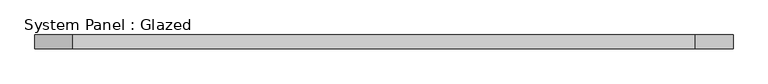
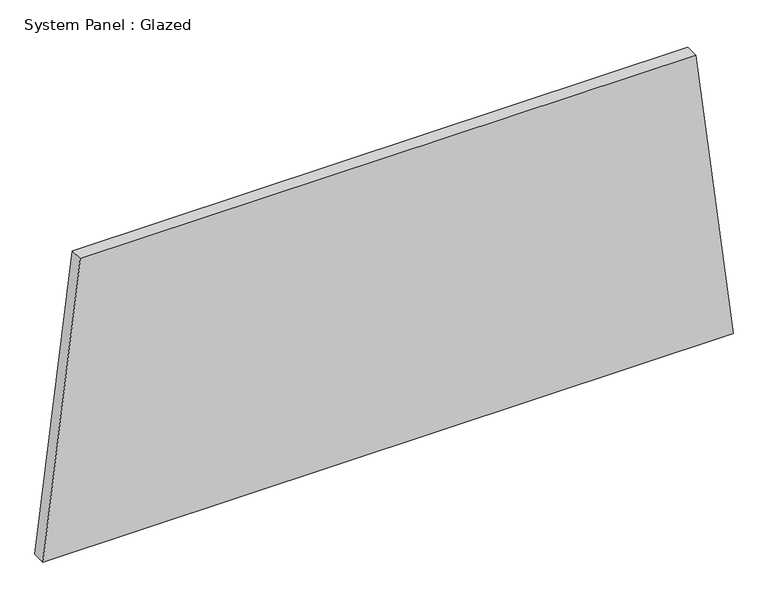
"""IFC4 building model written with IfcOpenShell, lengths in millimetres: plate geometry, System Panel : Glazed."""

from ifc_helpers import new_model, si_unit, frame, origin, place, context, project, spatial, polyline, outline, extrude, source, transform, mapped, element, save


def system_panel_glazed_a07c5774(model_context):
    return source(origin(), model_context, "Body", "SweptSolid", [
        extrude(outline(polyline([(0.0, -649.9498812), (0.0, 649.9498812), (579.7498878, 579.5119442), (579.7498878, -579.5119442), (0.0, -649.9498812)])), frame((0.0, 19.05, 0.0), z_axis=(0.0, 1.0, 0.0), x_axis=(0.0, 0.0, 1.0)), (0.0, 0.0, 1.0), 25.4),
    ])


if __name__ == "__main__":
    model = new_model("IFC4")
    model_context = context("Model", 3, world=origin())
    ifc_project = project(units=[si_unit("LENGTHUNIT", "METRE", prefix="MILLI")], contexts=[model_context])
    site = spatial("IfcSite", under=ifc_project)
    building = spatial("IfcBuilding", under=site)
    placement = place(None, origin())
    system_panel_glazed_shape = system_panel_glazed_a07c5774(model_context)
    element("IfcPlate", 1, ObjectType="System Panel : Glazed", at=placement, inside=building, context=model_context, shape_type="MappedRepresentation", body=[
        mapped(system_panel_glazed_shape, transform((0.0, 0.0, 0.0), x_axis=(1.0, 0.0, 0.0), y_axis=(0.0, 1.0, 0.0), z_axis=(0.0, 0.0, 1.0))),
    ])
    save(model, "model.ifc")
